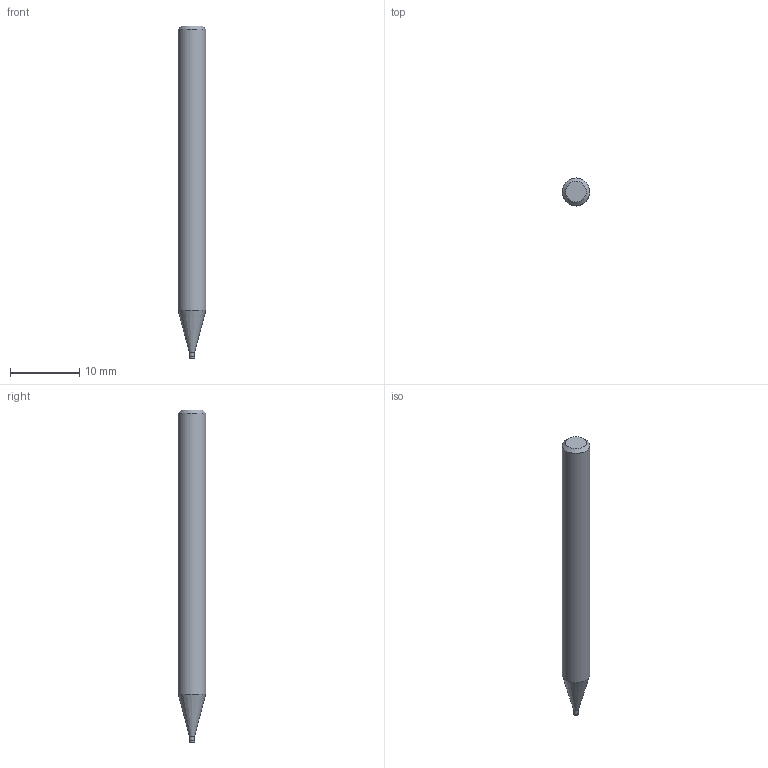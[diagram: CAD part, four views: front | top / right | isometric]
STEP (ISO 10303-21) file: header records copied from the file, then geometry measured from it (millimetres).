
FILE_DESCRIPTION((''),'2;1');
FILE_NAME('C:\Users\nsx150\AppData\Local\Temp\Mastercam 2021\LJSIDMOTM8\TEMP.step','2021-08-03T14:25:58',(''),(''),'STEP Write','Mastercam 2021 ... CNC Software, Inc.','');
FILE_SCHEMA(('AUTOMOTIVE_DESIGN'));
Length unit declared in the file: millimetre
Products named in the file (1): None
Bounding box: 4 x 4 x 48 mm (x, y, z)
Volume: 546.2 mm3; surface area: 575 mm2
Topology: 2 solids, 2 shells, 9 faces, 12 edges, 7 vertices
Faces by surface type: plane 4, cylinder 3, cone 2
Full cylindrical faces by diameter (mm): 0.72 x1, 0.8 x1, 4 x1
Entity records: 211 total; most frequent: DIRECTION 36, CARTESIAN_POINT 25, AXIS2_PLACEMENT_3D 18, ORIENTED_EDGE 14, EDGE_LOOP 14, STYLED_ITEM 12, ADVANCED_FACE 9, FACE_BOUND 8
